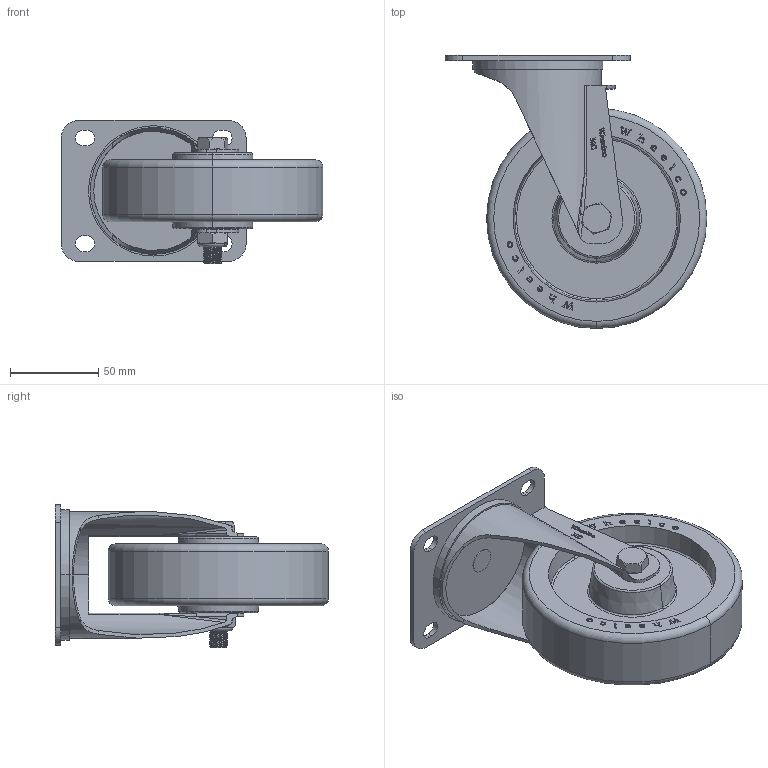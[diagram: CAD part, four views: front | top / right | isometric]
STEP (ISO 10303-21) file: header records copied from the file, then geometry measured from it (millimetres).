
FILE_DESCRIPTION (( 'STEP AP214' ), '1' );
FILE_NAME ('MCU125-P.step', '2023-11-29T20:29:08', ( '' ), ( '' ), 'SwSTEP 2.0', 'SolidWorks 2022', '' );
FILE_SCHEMA (( 'AUTOMOTIVE_DESIGN' ));
Length unit declared in the file: millimetre
Products named in the file (7): MCU125; MC 105x80 Swivel Plate; MCU125-P; MC125-P; M10X65 STAINLESS BOLT; SP15-10-47; M10 Nyloc SS
Assembly tree (6 placements, depth 2):
  MCU125-P
    MC125-P
    MC 105x80 Swivel Plate
    M10 Nyloc SS
    M10X65 STAINLESS BOLT
    SP15-10-47
    MCU125
Bounding box: 148.5 x 155 x 81.25 mm (x, y, z)
Volume: 374521.8 mm3; surface area: 106491.2 mm2
Topology: 7 solids, 7 shells, 960 faces, 2590 edges, 1714 vertices
Faces by surface type: plane 482, bspline 273, cylinder 154, cone 29, torus 22
Entity records: 51120 total; most frequent: CARTESIAN_POINT 27565, ORIENTED_EDGE 5180, DIRECTION 3485, EDGE_CURVE 2590, VERTEX_POINT 1714, LINE 1585, VECTOR 1585, EDGE_LOOP 1048
